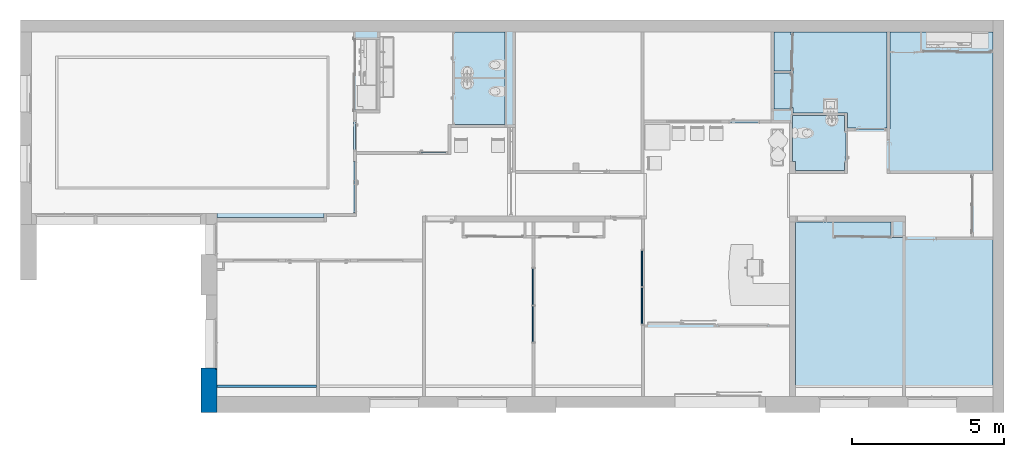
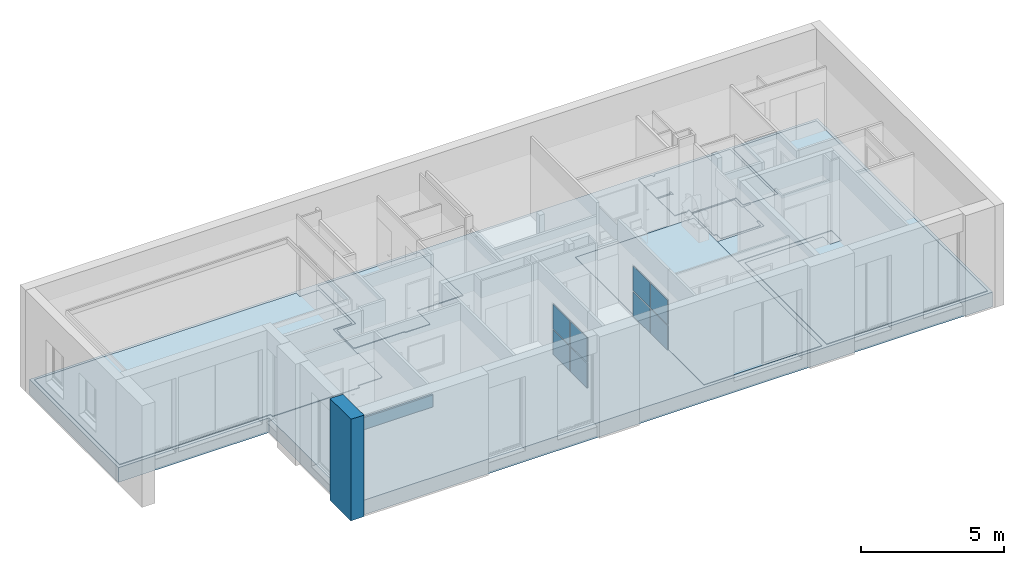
# One storey, part 2 of 32: 8 plates, 7 slabs, 2 walls, 1 opening, 2 elements without a shape of their own.
"""IFC2X3 building model written with IfcOpenShell, lengths in metres."""

from ifc_helpers import new_model, entity, si_unit, converted_unit, derived_unit, direction, frame, frame_2d, origin, place, context, subcontext, project, spatial, polyline, rectangle, outline, extrude, faceted_brep, source, transform, mapped, material, layer, layer_set, layer_usage, type_object, type_shapes, element, aggregate, save


model = new_model("IFC2X3")

# Units and contexts
model_context = context("Model", 3, precision=1e-05, world=origin(), true_north=direction((6.12303176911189e-17, 1.0)))
plan_context = context("Plan", 3, precision=1e-05, world=origin(), true_north=direction((6.12303176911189e-17, 1.0)))
body_context = subcontext(model_context, "Body", "Model", "MODEL_VIEW")
ifc_project = project(units=[si_unit("LENGTHUNIT", "METRE"), si_unit("AREAUNIT", "SQUARE_METRE"), si_unit("VOLUMEUNIT", "CUBIC_METRE"), converted_unit("PLANEANGLEUNIT", "DEGREE", entity("IfcRatioMeasure", 0.0174532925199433), si_unit("PLANEANGLEUNIT", "RADIAN"), dimensions=[0, 0, 0, 0, 0, 0, 0]), si_unit("MASSUNIT", "GRAM", prefix="KILO"), derived_unit("MASSDENSITYUNIT", [(si_unit("MASSUNIT", "GRAM", prefix="KILO"), 1), (si_unit("LENGTHUNIT", "METRE"), -3)]), derived_unit("MOMENTOFINERTIAUNIT", [(si_unit("LENGTHUNIT", "METRE"), 4)]), si_unit("TIMEUNIT", "SECOND"), si_unit("FREQUENCYUNIT", "HERTZ"), si_unit("THERMODYNAMICTEMPERATUREUNIT", "DEGREE_CELSIUS"), derived_unit("THERMALTRANSMITTANCEUNIT", [(si_unit("MASSUNIT", "GRAM", prefix="KILO"), 1), (si_unit("THERMODYNAMICTEMPERATUREUNIT", "KELVIN"), -1), (si_unit("TIMEUNIT", "SECOND"), -3)]), derived_unit("VOLUMETRICFLOWRATEUNIT", [(si_unit("LENGTHUNIT", "METRE"), 3), (si_unit("TIMEUNIT", "SECOND"), -1)]), si_unit("ELECTRICCURRENTUNIT", "AMPERE"), si_unit("ELECTRICVOLTAGEUNIT", "VOLT"), si_unit("POWERUNIT", "WATT"), si_unit("FORCEUNIT", "NEWTON", prefix="KILO"), si_unit("ILLUMINANCEUNIT", "LUX"), si_unit("LUMINOUSFLUXUNIT", "LUMEN"), si_unit("LUMINOUSINTENSITYUNIT", "CANDELA"), derived_unit("USERDEFINED", [(si_unit("MASSUNIT", "GRAM", prefix="KILO"), -1), (si_unit("LENGTHUNIT", "METRE"), -2), (si_unit("TIMEUNIT", "SECOND"), 3), (si_unit("LUMINOUSFLUXUNIT", "LUMEN"), 1)]), derived_unit("LINEARVELOCITYUNIT", [(si_unit("LENGTHUNIT", "METRE"), 1), (si_unit("TIMEUNIT", "SECOND"), -1)]), si_unit("PRESSUREUNIT", "PASCAL"), derived_unit("USERDEFINED", [(si_unit("LENGTHUNIT", "METRE"), -2), (si_unit("MASSUNIT", "GRAM", prefix="KILO"), 1), (si_unit("TIMEUNIT", "SECOND"), -2)]), derived_unit("LINEARFORCEUNIT", [(si_unit("MASSUNIT", "GRAM", prefix="KILO"), 1), (si_unit("LENGTHUNIT", "METRE"), 1), (si_unit("TIMEUNIT", "SECOND"), -2), (si_unit("LENGTHUNIT", "METRE"), -1)]), derived_unit("PLANARFORCEUNIT", [(si_unit("MASSUNIT", "GRAM", prefix="KILO"), 1), (si_unit("LENGTHUNIT", "METRE"), 1), (si_unit("TIMEUNIT", "SECOND"), -2), (si_unit("LENGTHUNIT", "METRE"), -2)])], contexts=[model_context, plan_context])

# Site, building, storey
site_placement = place(None, origin())
site = spatial("IfcSite", under=ifc_project, at=site_placement, Name="Default", CompositionType="ELEMENT")
building_placement = place(site_placement, origin())
building = spatial("IfcBuilding", under=site, at=building_placement, CompositionType="ELEMENT")
storey_placement = place(building_placement, origin())
storey = spatial("IfcBuildingStorey", under=building, at=storey_placement, Name="0 Mairie RDC 0.00", CompositionType="ELEMENT", Elevation=-1.94916083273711e-14)

# Slabs
ifc_material_1 = material(Name="Chape")
ifc_layer_1 = layer(ifc_material_1, 0.06)
ifc_material_2 = material(Name="Maçonnerie - Isolant")
ifc_layer_2 = layer(ifc_material_2, 0.12)
ifc_material_3 = material(Name="Maçonnerie - Béton")
ifc_layer_3 = layer(ifc_material_3, 0.15)
ifc_material_4 = material(Name="Tout venant")
ifc_layer_4 = layer(ifc_material_4, 0.3)
ifc_layer_set_1 = layer_set([ifc_layer_1, ifc_layer_2, ifc_layer_3, ifc_layer_4], Name="Sol:A chape 6 + isolant 12 + dalle ba 15 + tout venant 30")
ifc_layer_usage_1 = layer_usage(ifc_layer_set_1, "AXIS3", "POSITIVE", 0.0)
slab_type_1 = type_object("IfcSlabType", Name="Sols : Sol : A chape 6 + isolant 12 + dalle ba 15 + tout venant 30", PredefinedType="FLOOR", material=ifc_layer_set_1)
slab_1_placement = place(storey_placement, origin())
element("IfcSlab", 1, at=slab_1_placement, inside=storey, type_object=slab_type_1, material=ifc_layer_usage_1, Name="Sols : Sol : A chape 6 + isolant 12 + dalle ba 15 + tout venant 30", ObjectType="Sol:A chape 6 + isolant 12 + dalle ba 15 + tout venant 30", PredefinedType="FLOOR", context=body_context, shape_type="SweptSolid", body=[
    extrude(outline(polyline([(-0.0715707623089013, -12.6777884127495), (6.16868661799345, -12.6777884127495), (6.16868661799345, 19.246842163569), (-6.09711585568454, 19.246842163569), (-6.09711585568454, -6.56905375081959), (-0.0715707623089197, -6.56905375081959), (-0.0715707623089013, -12.6777884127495)])), frame((-17.3392265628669, -8.01145036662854, -0.0200000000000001), z_axis=(0.0, 0.0, -1.0), x_axis=(0.0, 1.0, 0.0)), (0.0, 0.0, 1.0), 0.63),
])
ifc_material_5 = material(Name="Carrelage 20 x 20")
ifc_layer_5 = layer(ifc_material_5, 0.02)
ifc_layer_set_2 = layer_set([ifc_layer_5], Name="Sol:A Carrelage1 20x20")
ifc_layer_usage_2 = layer_usage(ifc_layer_set_2, "AXIS3", "POSITIVE", 0.0)
slab_type_2 = type_object("IfcSlabType", Name="Sols : Sol : A Carrelage1 20x20", PredefinedType="FLOOR")
slab_2_placement = place(storey_placement, frame((-19.2221823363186, -6.53378247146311, -0.02)))
element("IfcSlab", 2, at=slab_2_placement, inside=storey, type_object=slab_type_2, material=ifc_layer_usage_2, Name="Sols : Sol : A Carrelage1 20x20", ObjectType="Sol:A Carrelage1 20x20", PredefinedType="FLOOR", context=body_context, shape_type="SweptSolid", body=[
    extrude(outline(polyline([(-8.75221354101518, 2.28086291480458), (-8.75221354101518, -0.884733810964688), (-8.6672135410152, -0.884733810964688), (-8.6672135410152, -0.92473381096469), (-7.7372135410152, -0.924733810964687), (-7.7372135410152, -0.88473381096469), (-7.45105117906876, -0.884733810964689), (-7.45105117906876, -0.399867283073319), (-5.66247209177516, -0.399867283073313), (-5.66247209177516, -0.208886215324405), (-5.59247209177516, -0.208886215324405), (-5.59247209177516, -0.257886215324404), (-5.04247209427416, -0.257886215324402), (-5.04247209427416, 0.925170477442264), (-5.59247209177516, 0.925170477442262), (-5.59247209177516, 0.891113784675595), (-5.66247209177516, 0.891113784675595), (-5.66247209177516, 1.07886291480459), (-5.59247209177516, 1.07886291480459), (-5.59247209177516, 0.995170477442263), (-5.04247209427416, 0.995170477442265), (-5.04247209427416, 2.2801558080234), (-5.59247209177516, 2.2801558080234), (-5.59247209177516, 2.17886291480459), (-5.66247209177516, 2.17886291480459), (-5.66247209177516, 2.28086291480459), (-8.75221354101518, 2.28086291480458)])), frame((8.75221354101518, 2.28086291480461, 0.02), z_axis=(0.0, 0.0, -1.0), x_axis=(-1.0, 0.0, 0.0)), (0.0, 0.0, 1.0), 0.02),
])
slab_type_3 = type_object("IfcSlabType", Name="Sols : Sol : A Carrelage1 20x20", PredefinedType="FLOOR")
slab_3_placement = place(storey_placement, frame((-19.2221823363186, -6.53378247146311, -0.02)))
element("IfcSlab", 3, at=slab_3_placement, inside=storey, type_object=slab_type_3, material=ifc_layer_usage_2, Name="Sols : Sol : A Carrelage1 20x20:2", ObjectType="Sol:A Carrelage1 20x20", PredefinedType="FLOOR", context=body_context, shape_type="SweptSolid", body=[
    extrude(outline(polyline([(3.82680729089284, 2.28015580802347), (3.82680729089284, -0.767002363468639), (5.69665810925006, -0.767002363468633), (5.69665810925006, -1.65984418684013), (5.71165810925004, -1.65984418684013), (5.71165810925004, -1.70984418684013), (6.71165810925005, -1.70984418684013), (6.71165810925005, -1.65984418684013), (8.71221354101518, -1.65984418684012), (8.71221354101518, -1.64484418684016), (8.75221354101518, -1.64484418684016), (8.75221354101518, -0.644844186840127), (8.71221354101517, -0.644844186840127), (8.71221354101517, -0.390844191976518), (7.94221354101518, -0.390844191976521), (7.94221354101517, 2.28015580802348), (3.82680729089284, 2.28015580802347)])), frame((8.75221354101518, 2.28086291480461, 0.02), z_axis=(0.0, 0.0, -1.0), x_axis=(-1.0, 0.0, 0.0)), (0.0, 0.0, 1.0), 0.02),
])
slab_type_4 = type_object("IfcSlabType", Name="Sols : Sol : A Carrelage1 20x20", PredefinedType="FLOOR", material=ifc_layer_set_2)
slab_4_placement = place(storey_placement, frame((-19.2221823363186, -6.53378247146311, -0.02)))
element("IfcSlab", 4, at=slab_4_placement, inside=storey, type_object=slab_type_4, material=ifc_layer_usage_2, Name="Sols : Sol : A Carrelage1 20x20:3", ObjectType="Sol:A Carrelage1 20x20", PredefinedType="FLOOR", context=body_context, shape_type="SweptSolid", body=[
    extrude(outline(polyline([(-7.35105117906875, -0.469867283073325), (-7.35105117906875, -0.999733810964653), (-7.41105117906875, -0.999733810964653), (-7.41105117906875, -1.99973381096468), (-7.35105117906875, -1.99973381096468), (-7.35105117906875, -2.28086291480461), (-5.74247209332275, -2.2808629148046), (-5.74247209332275, -1.98086291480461), (-5.64247209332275, -1.98086291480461), (-5.64247209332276, -0.469867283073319), (-7.35105117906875, -0.469867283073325)])), frame((8.75221354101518, 2.28086291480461, 0.02), z_axis=(0.0, 0.0, -1.0), x_axis=(-1.0, 0.0, 0.0)), (0.0, 0.0, 1.0), 0.02),
])

# Curtain wall, plates
curtain_wall_type = type_object("IfcCurtainWallType", Name="Murs : Mur-rideau : Simple panneau", PredefinedType="NOTDEFINED")
curtain_wall_1_placement = place(storey_placement, origin())
curtain_wall_1 = element("IfcCurtainWall", 5, at=curtain_wall_1_placement, inside=storey, type_object=curtain_wall_type, Name="Murs : Mur-rideau : Simple panneau", ObjectType="Mur-rideau:Simple panneau")
ifc_material_6 = material(Name="Verre")
ifc_layer_6 = layer(ifc_material_6, 0.04)
ifc_layer_set_3 = layer_set([ifc_layer_6], Name="Mur-rideau:Simple panneau")
ifc_layer_usage_3 = layer_usage(ifc_layer_set_3, "AXIS3", "POSITIVE", 0.0820209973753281)
plate_type = type_object("IfcPlateType", Name="Panneaux de murs-rideaux : Panneau système : Vitré", PredefinedType="CURTAIN_PANEL", material=ifc_layer_set_3)
shared_shape = source(origin(), body_context, "Body", "SweptSolid", [
    extrude(rectangle(XDim=0.04, YDim=1.175, at=frame_2d((-3.46944695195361e-18, 0.0), x_axis=(1.0, 0.0))), frame((0.5875, 0.02, 0.0), z_axis=(0.0, 0.0, 1.0), x_axis=(0.0, 1.0, 0.0)), (0.0, 0.0, 1.0), 1.05),
])
type_shapes(plate_type, [shared_shape])
plate_1_placement = place(curtain_wall_1_placement, frame((-9.75964553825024, -11.5785833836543, 0.0499999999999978), z_axis=(0.0, 0.0, 1.0), x_axis=(0.0, 1.0, 0.0)))
plate_1 = element("IfcPlate", 6, at=plate_1_placement, type_object=plate_type, material=ifc_layer_usage_3, Name="Panneaux de murs-rideaux : Panneau système : Vitré", ObjectType="Panneau système:Vitré", context=body_context, shape_type="MappedRepresentation", body=[
    mapped(shared_shape, transform((0.0, 0.0, 0.0), scale=1.0)),
])
ifc_layer_usage_4 = layer_usage(ifc_layer_set_3, "AXIS3", "POSITIVE", 0.0820209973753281)
plate_2_placement = place(curtain_wall_1_placement, frame((-9.75964553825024, -10.3535833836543, 0.0499999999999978), z_axis=(0.0, 0.0, 1.0), x_axis=(0.0, 1.0, 0.0)))
plate_2 = element("IfcPlate", 7, at=plate_2_placement, type_object=plate_type, material=ifc_layer_usage_4, Name="Panneaux de murs-rideaux : Panneau système : Vitré", ObjectType="Panneau système:Vitré", context=body_context, shape_type="MappedRepresentation", body=[
    mapped(shared_shape, transform((0.0, 0.0, 0.0), scale=1.0)),
])
ifc_layer_usage_5 = layer_usage(ifc_layer_set_3, "AXIS3", "POSITIVE", 0.0820209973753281)
plate_3_placement = place(curtain_wall_1_placement, frame((-9.75964553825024, -11.5785833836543, 1.15), z_axis=(0.0, 0.0, 1.0), x_axis=(0.0, 1.0, 0.0)))
plate_3 = element("IfcPlate", 8, at=plate_3_placement, type_object=plate_type, material=ifc_layer_usage_5, Name="Panneaux de murs-rideaux : Panneau système : Vitré", ObjectType="Panneau système:Vitré", context=body_context, shape_type="MappedRepresentation", body=[
    mapped(shared_shape, transform((0.0, 0.0, 0.0), scale=1.0)),
])
ifc_layer_usage_6 = layer_usage(ifc_layer_set_3, "AXIS3", "POSITIVE", 0.0820209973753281)
plate_4_placement = place(curtain_wall_1_placement, frame((-9.75964553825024, -10.3535833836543, 1.15), z_axis=(0.0, 0.0, 1.0), x_axis=(0.0, 1.0, 0.0)))
plate_4 = element("IfcPlate", 9, at=plate_4_placement, type_object=plate_type, material=ifc_layer_usage_6, Name="Panneaux de murs-rideaux : Panneau système : Vitré", ObjectType="Panneau système:Vitré", context=body_context, shape_type="MappedRepresentation", body=[
    mapped(shared_shape, transform((0.0, 0.0, 0.0), scale=1.0)),
])
aggregate(curtain_wall_1, [plate_1, plate_2, plate_3, plate_4])

curtain_wall_2_placement = place(storey_placement, origin())
curtain_wall_2 = element("IfcCurtainWall", 10, at=curtain_wall_2_placement, inside=storey, type_object=curtain_wall_type, Name="Murs : Mur-rideau : Simple panneau", ObjectType="Mur-rideau:Simple panneau")
ifc_layer_usage_7 = layer_usage(ifc_layer_set_3, "AXIS3", "POSITIVE", 0.0820209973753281)
plate_5_placement = place(curtain_wall_2_placement, frame((-13.3592550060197, -12.1787649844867, 0.0499999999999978), z_axis=(0.0, 0.0, 1.0), x_axis=(0.0, 1.0, 0.0)))
plate_5 = element("IfcPlate", 11, at=plate_5_placement, type_object=plate_type, material=ifc_layer_usage_7, Name="Panneaux de murs-rideaux : Panneau système : Vitré", ObjectType="Panneau système:Vitré", context=body_context, shape_type="MappedRepresentation", body=[
    mapped(shared_shape, transform((0.0, 0.0, 0.0), scale=1.0)),
])
ifc_layer_usage_8 = layer_usage(ifc_layer_set_3, "AXIS3", "POSITIVE", 0.0820209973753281)
plate_6_placement = place(curtain_wall_2_placement, frame((-13.3592550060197, -10.9537649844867, 0.0499999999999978), z_axis=(0.0, 0.0, 1.0), x_axis=(0.0, 1.0, 0.0)))
plate_6 = element("IfcPlate", 12, at=plate_6_placement, type_object=plate_type, material=ifc_layer_usage_8, Name="Panneaux de murs-rideaux : Panneau système : Vitré", ObjectType="Panneau système:Vitré", context=body_context, shape_type="MappedRepresentation", body=[
    mapped(shared_shape, transform((0.0, 0.0, 0.0), scale=1.0)),
])
ifc_layer_usage_9 = layer_usage(ifc_layer_set_3, "AXIS3", "POSITIVE", 0.0820209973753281)
plate_7_placement = place(curtain_wall_2_placement, frame((-13.3592550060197, -12.1787649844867, 1.15), z_axis=(0.0, 0.0, 1.0), x_axis=(0.0, 1.0, 0.0)))
plate_7 = element("IfcPlate", 13, at=plate_7_placement, type_object=plate_type, material=ifc_layer_usage_9, Name="Panneaux de murs-rideaux : Panneau système : Vitré", ObjectType="Panneau système:Vitré", context=body_context, shape_type="MappedRepresentation", body=[
    mapped(shared_shape, transform((0.0, 0.0, 0.0), scale=1.0)),
])
ifc_layer_usage_10 = layer_usage(ifc_layer_set_3, "AXIS3", "POSITIVE", 0.0820209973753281)
plate_8_placement = place(curtain_wall_2_placement, frame((-13.3592550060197, -10.9537649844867, 1.15), z_axis=(0.0, 0.0, 1.0), x_axis=(0.0, 1.0, 0.0)))
plate_8 = element("IfcPlate", 14, at=plate_8_placement, type_object=plate_type, material=ifc_layer_usage_10, Name="Panneaux de murs-rideaux : Panneau système : Vitré", ObjectType="Panneau système:Vitré", context=body_context, shape_type="MappedRepresentation", body=[
    mapped(shared_shape, transform((0.0, 0.0, 0.0), scale=1.0)),
])
aggregate(curtain_wall_2, [plate_5, plate_6, plate_7, plate_8])

# Slabs
ifc_material_7 = material(Name="Carrelage 30 x 30")
ifc_layer_7 = layer(ifc_material_7, 0.02)
ifc_layer_set_4 = layer_set([ifc_layer_7], Name="Sol:A Carrelage 2 30x30")
ifc_layer_usage_11 = layer_usage(ifc_layer_set_4, "AXIS3", "POSITIVE", 0.0)
slab_type_5 = type_object("IfcSlabType", Name="Sols : Sol : A Carrelage 2 30x30", PredefinedType="FLOOR")
slab_5_placement = place(storey_placement, frame((-29.8870149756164, -13.9785662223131, -0.02)))
element("IfcSlab", 15, at=slab_5_placement, inside=storey, type_object=slab_type_5, material=ifc_layer_usage_11, Name="Sols : Sol : A Carrelage 2 30x30", ObjectType="Sol:A Carrelage 2 30x30", PredefinedType="FLOOR", context=body_context, shape_type="SweptSolid", body=[
    extrude(outline(polyline([(1.8749264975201, 6.00290123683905), (1.8749264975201, 5.75290123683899), (1.10492649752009, 5.75290123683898), (1.1049264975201, 3.431901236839), (1.8749264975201, 3.43190123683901), (1.8749264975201, 1.73120376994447), (1.82750346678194, 1.73120376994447), (1.82750346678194, 0.0612037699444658), (1.8749264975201, 0.0612037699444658), (1.8749264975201, 0.0229041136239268), (2.83913553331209, 0.0229041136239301), (2.83913553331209, -0.104691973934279), (6.37102447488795, -0.104691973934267), (6.37102447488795, 0.0226438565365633), (12.4797591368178, 0.0226438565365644), (12.4797591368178, 6.00290123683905), (1.8749264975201, 6.00290123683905)])), frame((12.4797591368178, 6.00290123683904, 0.02), z_axis=(0.0, 0.0, -1.0), x_axis=(-1.0, 0.0, 0.0)), (0.0, 0.0, 1.0), 0.02),
])
slab_type_6 = type_object("IfcSlabType", Name="Sols : Sol : A Carrelage 2 30x30", PredefinedType="FLOOR", material=ifc_layer_set_4)
slab_6_placement = place(storey_placement, frame((-29.8870149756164, -13.9785662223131, -0.02)))
element("IfcSlab", 16, at=slab_6_placement, inside=storey, type_object=slab_type_6, material=ifc_layer_usage_11, Name="Sols : Sol : A Carrelage 2 30x30:2", ObjectType="Sol:A Carrelage 2 30x30", PredefinedType="FLOOR", context=body_context, shape_type="SweptSolid", body=[
    extrude(rectangle(XDim=9.00035080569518, YDim=4.7809504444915, at=frame_2d((-10.0892839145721, -1.50272583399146), x_axis=(0.0, -1.0))), frame((12.4797591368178, 6.00290123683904, 0.02), z_axis=(0.0, 0.0, -1.0), x_axis=(-1.0, 0.0, 0.0)), (0.0, 0.0, 1.0), 0.02),
])
ifc_material_8 = material(Name="Sol souple PVC")
ifc_layer_8 = layer(ifc_material_8, 0.02)
ifc_layer_set_5 = layer_set([ifc_layer_8], Name="Sol:A Sol souple 1")
ifc_layer_usage_12 = layer_usage(ifc_layer_set_5, "AXIS3", "POSITIVE", 0.0)
slab_type_7 = type_object("IfcSlabType", Name="Sols : Sol : A Sol souple 1", PredefinedType="FLOOR", material=ifc_layer_set_5)
slab_7_placement = place(storey_placement, frame((-23.7782803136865, -13.9785662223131, -0.02)))
element("IfcSlab", 17, at=slab_7_placement, inside=storey, type_object=slab_type_7, material=ifc_layer_usage_12, Name="Sols : Sol : A Sol souple 1:2", ObjectType="Sol:A Sol souple 1", PredefinedType="FLOOR", context=body_context, shape_type="SweptSolid", body=[
    extrude(outline(polyline([(-12.7779479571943, 6.00290123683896), (-12.7779479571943, -6.00290123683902), (-6.27283565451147, -6.00290123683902), (-6.27283565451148, -0.262603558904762), (-9.42425544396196, -0.262603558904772), (-9.42425544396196, -0.776092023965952), (-9.89394013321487, -0.776092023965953), (-9.89394013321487, -0.0626035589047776), (-6.07283565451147, -0.0626035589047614), (-6.07283565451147, 1.34188251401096), (-7.98141474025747, 1.34188251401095), (-7.98141474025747, 1.72301161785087), (-7.94141474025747, 1.72301161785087), (-7.94141474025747, 2.7230116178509), (-7.98141474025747, 2.7230116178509), (-7.98141474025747, 2.73801161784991), (-8.23257710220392, 2.73801161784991), (-8.23257710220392, 2.79801161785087), (-9.3825771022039, 2.79801161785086), (-9.3825771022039, 6.00290123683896), (-12.7779479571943, 6.00290123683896)])), frame((12.7779479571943, 6.00290123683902, 0.02), z_axis=(0.0, 0.0, -1.0), x_axis=(-1.0, 0.0, 0.0)), (0.0, 0.0, 1.0), 0.02),
])

# Wall
ifc_material_9 = material(Name="Plâtre")
ifc_layer_9 = layer(ifc_material_9, 0.01)
ifc_layer_10 = layer(ifc_material_2, 0.05)
ifc_layer_11 = layer(ifc_material_9, 0.01)
ifc_layer_set_6 = layer_set([ifc_layer_9, ifc_layer_10, ifc_layer_11], Name="Mur de base:A cloison placostil 72 sèche")
ifc_layer_usage_13 = layer_usage(ifc_layer_set_6, "AXIS2", "POSITIVE", -0.035)
wall_type_1 = type_object("IfcWallType", Name="Murs : Mur de base : A cloison placostil 72 sèche", PredefinedType="STANDARD", material=ifc_layer_set_6)
wall_1_placement = place(storey_placement, frame((-23.7782803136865, -13.6435662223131, 2.65)))
element("IfcWallStandardCase", 18, at=wall_1_placement, inside=storey, type_object=wall_type_1, material=ifc_layer_usage_13, Name="Murs : Mur de base : A cloison placostil 72 sèche", ObjectType="Mur de base:A cloison placostil 72 sèche", context=body_context, shape_type="SweptSolid", body=[
    extrude(rectangle(XDim=3.27612410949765, YDim=0.0700000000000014, at=frame_2d((1.63806205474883, -3.12250225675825e-17), x_axis=(-1.0, 0.0))), origin(), (0.0, 0.0, 1.0), 0.510000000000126),
])

# Wall, opening
ifc_material_10 = material(Name="Moellons")
ifc_layer_12 = layer(ifc_material_10, 0.19)
ifc_material_11 = material(Name="Béton, coulé sur place")
ifc_layer_13 = layer(ifc_material_11, 0.2)
ifc_material_12 = material(Name="Vide")
ifc_layer_14 = layer(ifc_material_12, 0.01)
ifc_layer_15 = layer(ifc_material_2, 0.12)
ifc_layer_16 = layer(ifc_material_9, 0.01)
ifc_layer_set_7 = layer_set([ifc_layer_12, ifc_layer_13, ifc_layer_14, ifc_layer_15, ifc_layer_16], Name="Mur de base:A Parement pierre 19 + Béton 20 + vide 1 +   Doublage 14")
ifc_layer_usage_14 = layer_usage(ifc_layer_set_7, "AXIS2", "POSITIVE", -0.265)
wall_type_2 = type_object("IfcWallType", Name="Murs : Mur de base : A Parement pierre 19 + Béton 20 + vide 1 +   Doublage 14", PredefinedType="STANDARD", material=ifc_layer_set_7)
wall_2_placement = place(storey_placement, frame((-24.0432803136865, -13.0369624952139, -0.400000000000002), z_axis=(0.0, 0.0, 1.0), x_axis=(0.0, -1.0, 0.0)))
wall_2 = element("IfcWallStandardCase", 19, at=wall_2_placement, inside=storey, type_object=wall_type_2, material=ifc_layer_usage_14, Name="Murs : Mur de base : A Parement pierre 19 + Béton 20 + vide 1 +   Doublage 14", ObjectType="Mur de base:A Parement pierre 19 + Béton 20 + vide 1 +   Doublage 14", context=body_context, shape_type="SweptSolid", body=[
    extrude(rectangle(XDim=1.47160372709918, YDim=0.530000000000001, at=frame_2d((0.73580186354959, 5.82867087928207e-16), x_axis=(-1.0, 0.0))), origin(), (0.0, 0.0, 1.0), 4.35000000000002),
])
opening_placement = place(wall_2_placement, frame((0.0500000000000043, -0.414999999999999, 0.400000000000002)))
element("IfcOpeningElement", 20, at=opening_placement, cuts=wall_2, Name="Murs : Mur de base : A Parement pierre 19 + Béton 20 + vide 1 +   Doublage 14", ObjectType="Opening", context=body_context, shape_type="Brep", body=[
    faceted_brep([(-0.0499999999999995, 0.599999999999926, 0.035), (-0.0499999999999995, 0.580000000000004, 0.035), (-0.0499999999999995, 0.580000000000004, 3.185), (-0.0500000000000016, 0.0, 3.185), (-0.0500000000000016, 0.0, 0.0), (-0.0500000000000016, 0.266997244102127, 0.0), (-1.65, 1.0, 0.0350000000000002), (-1.65, 0.680000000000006, 0.0350000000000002), (-1.65, 0.680000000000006, 3.185), (-1.65, 1.0, 3.185), (-0.0500000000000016, 1.0, 0.0350000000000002), (-0.0500000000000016, 0.680000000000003, 0.0350000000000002), (0.0, 0.680000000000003, 0.0350000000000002), (0.0, 0.630000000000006, 0.0350000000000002), (-0.0400000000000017, 0.630000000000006, 0.0350000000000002), (-0.0399999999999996, 0.58, 0.0350000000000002), (-1.65, 0.599999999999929, 0.0349999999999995), (-1.65, 0.580000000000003, 0.0350000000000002), (-1.66, 0.580000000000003, 0.0350000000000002), (-1.66, 0.630000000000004, 0.0350000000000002), (-1.7, 0.630000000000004, 0.0350000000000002), (-1.7, 0.680000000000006, 0.0350000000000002), (-0.0500000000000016, 1.0, 3.185), (-1.65, 0.580000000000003, 3.185), (-1.65, 0.0, 3.185), (-1.65, 0.0, 0.0), (-1.65, 0.26699724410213, 0.0), (0.0, 0.680000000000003, 3.235), (0.0, 0.630000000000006, 3.235), (-1.7, 0.630000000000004, 3.235), (-1.66, 0.630000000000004, 3.195), (-0.0400000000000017, 0.630000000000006, 3.195), (-0.0399999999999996, 0.580000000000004, 3.195), (-1.66, 0.580000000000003, 3.195), (-0.0500000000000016, 0.680000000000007, 3.185), (-1.7, 0.680000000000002, 3.235)], [[[0, 1, 2, 3, 4, 5]], [[6, 7, 8, 9]], [[10, 11, 12, 13, 14, 15, 1, 0, 16, 17, 18, 19, 20, 21, 7, 6]], [[10, 6, 9, 22]], [[3, 2, 23, 24]], [[3, 24, 25, 4]], [[4, 25, 26, 5]], [[5, 26, 16, 0]], [[12, 27, 28, 13]], [[13, 28, 29, 20, 19, 30, 31, 14]], [[14, 31, 32, 15]], [[15, 32, 33, 18, 17, 23, 2, 1]], [[11, 34, 8, 7, 21, 35, 27, 12]], [[27, 35, 29, 28]], [[30, 33, 32, 31]], [[29, 35, 21, 20]], [[19, 18, 33, 30]], [[9, 8, 34, 22]], [[24, 23, 17, 16, 26, 25]], [[22, 34, 11, 10]]]),
])

save(model, "model.ifc")
